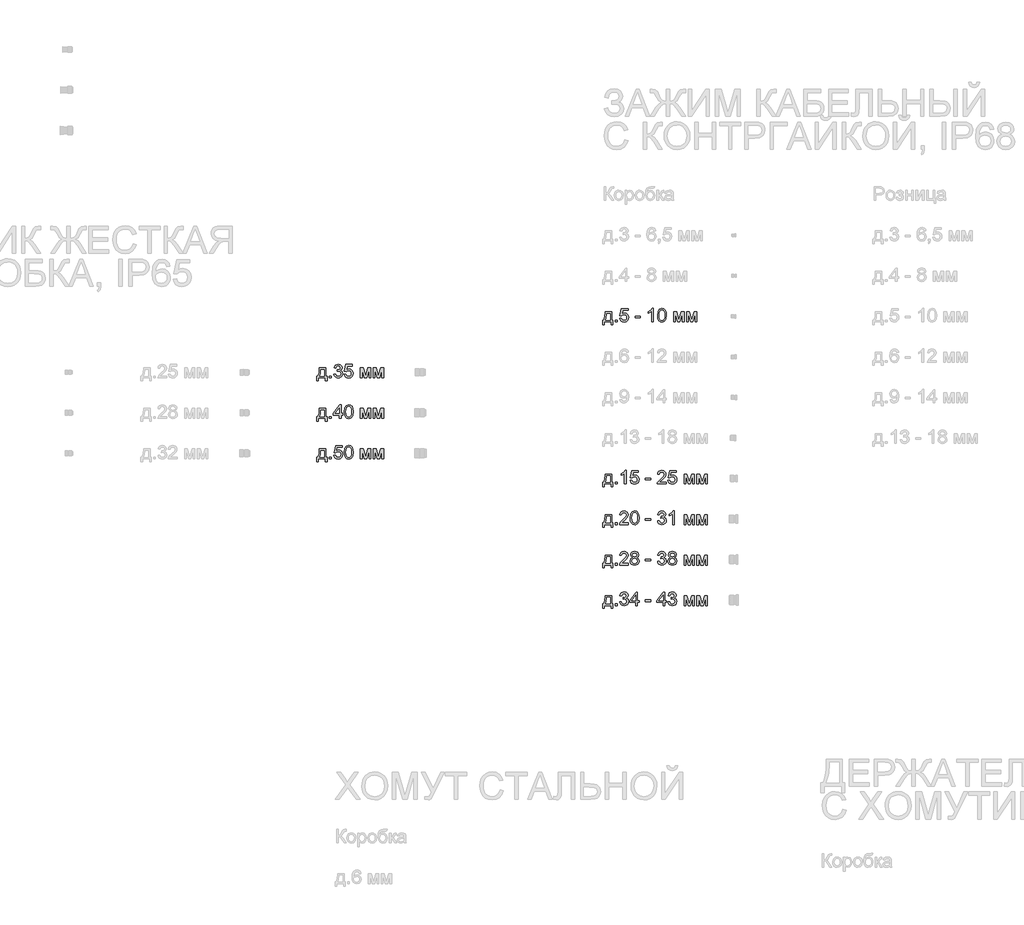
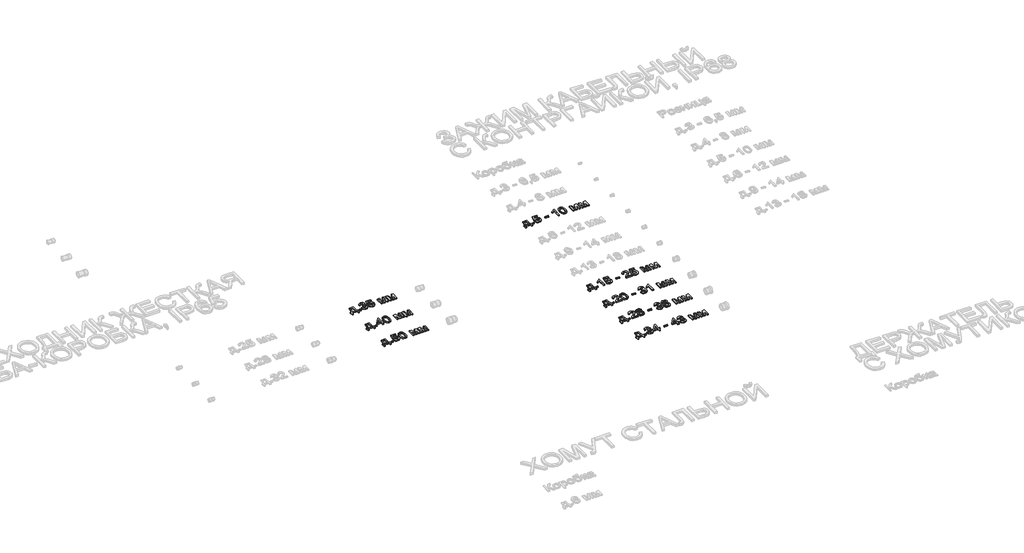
# One storey, part 56 of 98: 8 proxies.
"""IFC4 building model written with IfcOpenShell, lengths in millimetres."""

import ifcopenshell
import ifcopenshell.guid

model = None  # the IFC model being written
_history = None  # IfcOwnerHistory: only IFC2X3 demands one
_inside = {}  # id of a spatial element -> (the spatial element, [elements in it])
_under = {}  # id of a project, library or spatial element -> (it, [spatial elements below it])
_declared = {}  # id of a project -> (the project, [libraries it declares])
_typed = {}  # id of a type object -> (the type object, [elements of that type])
_made_of = {}  # id of a material, layer set ... -> (it, [elements and type objects made of it])


def new_model(schema):
    """Start an empty IFC model of exactly this schema.

    Asked for "IFC4X3", IfcOpenShell would pick the latest addendum, in which some entities
    have other attributes; the version numbers below select the first issue.
    IFC2X3 requires an IfcOwnerHistory on every rooted entity: one is made here for all.
    """
    global model, _history
    if schema == "IFC4X3":
        model = ifcopenshell.file(schema_version=(4, 3, 0, 0))
    else:
        model = ifcopenshell.file(schema=schema)
    _inside.clear()
    _under.clear()
    _declared.clear()
    _typed.clear()
    _made_of.clear()
    _history = None
    if model.schema == "IFC2X3":
        org = make("IfcOrganization", Name="unknown")
        user = make(
            "IfcPersonAndOrganization",
            ThePerson=make("IfcPerson", FamilyName="unknown"),
            TheOrganization=org,
        )
        app = make(
            "IfcApplication",
            ApplicationDeveloper=org,
            Version="unknown",
            ApplicationFullName="unknown",
            ApplicationIdentifier="unknown",
        )
        _history = make(
            "IfcOwnerHistory",
            OwningUser=user,
            OwningApplication=app,
            ChangeAction="ADDED",
            CreationDate=0,
        )
    return model


def make(cls, **values):
    """One entity of the class cls with the attributes given. An attribute that is None is left unset."""
    return model.create_entity(
        cls, **{name: value for name, value in values.items() if value is not None}
    )


def rooted(cls, **values):
    """An entity with a GlobalId (a new one), such as an element, a storey or a relation."""
    return make(cls, GlobalId=ifcopenshell.guid.new(), OwnerHistory=_history, **values)


def si_unit(unit_type, name, prefix=None):
    """IfcSIUnit, for example si_unit("LENGTHUNIT", "METRE", prefix="MILLI")."""
    return make("IfcSIUnit", UnitType=unit_type, Prefix=prefix, Name=name)


def assignment(units):
    """IfcUnitAssignment: the units of a project."""
    return None if units is None else make("IfcUnitAssignment", Units=units)


def point(xyz):
    """IfcCartesianPoint."""
    return None if xyz is None else make("IfcCartesianPoint", Coordinates=xyz)


def direction(xyz):
    """IfcDirection."""
    return None if xyz is None else make("IfcDirection", DirectionRatios=xyz)


def frame(location, z_axis=None, x_axis=None):
    """IfcAxis2Placement3D, a coordinate frame: its origin and axes. An axis left out is left unset."""
    return make(
        "IfcAxis2Placement3D",
        Location=point(location),
        Axis=direction(z_axis),
        RefDirection=direction(x_axis),
    )


def origin():
    """The frame at (0, 0, 0) with its axes left unset."""
    return frame((0.0, 0.0, 0.0))


def origin_with_axes():
    """The frame at (0, 0, 0) with the z axis (0, 0, 1) and the x axis (1, 0, 0) written out."""
    return frame((0.0, 0.0, 0.0), z_axis=(0.0, 0.0, 1.0), x_axis=(1.0, 0.0, 0.0))


def place(relative_to, where):
    """IfcLocalPlacement: puts the frame where relative to a parent placement (None: the world)."""
    return make(
        "IfcLocalPlacement", PlacementRelTo=relative_to, RelativePlacement=where
    )


def context(
    kind, dimensions, precision=None, world=None, true_north=None, identifier=None
):
    """IfcGeometricRepresentationContext, for example the 3D "Model" context."""
    return make(
        "IfcGeometricRepresentationContext",
        ContextIdentifier=identifier,
        ContextType=kind,
        CoordinateSpaceDimension=dimensions,
        Precision=precision,
        WorldCoordinateSystem=world,
        TrueNorth=true_north,
    )


def project(units=None, contexts=None):
    """IfcProject with its units and contexts."""
    return rooted(
        "IfcProject",
        Name="project",
        RepresentationContexts=contexts,
        UnitsInContext=assignment(units),
    )


def spatial(cls, under=None, at=None, **own):
    """A site, building, storey or space (cls), placed at a placement, below another one or the project."""
    s = rooted(cls, ObjectPlacement=at, **own)
    if under is not None:
        _under.setdefault(under.id(), (under, []))[1].append(s)
    return s


def polyline(points):
    """IfcPolyline through the points."""
    return make("IfcPolyline", Points=[point(p) for p in points])


def outline(outer, holes=None, kind="AREA"):
    """IfcArbitraryClosedProfileDef: a profile drawn as a closed curve; with holes, ...WithVoids."""
    if holes is None:
        return make("IfcArbitraryClosedProfileDef", ProfileType=kind, OuterCurve=outer)
    return make(
        "IfcArbitraryProfileDefWithVoids",
        ProfileType=kind,
        OuterCurve=outer,
        InnerCurves=holes,
    )


def extrude(swept, where, along, depth):
    """IfcExtrudedAreaSolid: the profile swept, set in the frame where, extruded along a direction by depth."""
    return make(
        "IfcExtrudedAreaSolid",
        SweptArea=swept,
        Position=where,
        ExtrudedDirection=direction(along),
        Depth=depth,
    )


def shape(context_of_items, identifier, shape_type, items):
    """IfcShapeRepresentation: the items that make up one representation, for example the "Body"."""
    return make(
        "IfcShapeRepresentation",
        ContextOfItems=context_of_items,
        RepresentationIdentifier=identifier,
        RepresentationType=shape_type,
        Items=items,
    )


def made_of(thing, what):
    """Note that an element or type object is made of a material, layer set ...; save() writes the relation."""
    if what is not None:
        _made_of.setdefault(what.id(), (what, []))[1].append(thing)
    return thing


def element(
    cls,
    number,
    at=None,
    inside=None,
    cuts=None,
    type_object=None,
    material=None,
    context=None,
    identifier="Body",
    shape_type=None,
    held_by="IfcProductDefinitionShape",
    body=None,
    shapes=None,
    **own,
):
    """One element of the class cls, such as IfcWall. Its Tag is "e" and its number.

    at: its placement. inside: the storey or other place that contains it. cuts: it is an
    opening in that element (IfcRelVoidsElement). A single representation is given by context,
    identifier, shape_type and body (its items); several are given by shapes. held_by: the class
    of the entity that holds the representations. save() writes the other relations.
    """
    e = rooted(cls, Tag="e%d" % number, ObjectPlacement=at, **own)
    if body is not None:
        shapes = [shape(context, identifier, shape_type, body)]
    if shapes is not None:
        e.Representation = make(held_by, Representations=shapes)
    if inside is not None:
        _inside.setdefault(inside.id(), (inside, []))[1].append(e)
    if cuts is not None:
        rooted(
            "IfcRelVoidsElement", RelatingBuildingElement=cuts, RelatedOpeningElement=e
        )
    if type_object is not None:
        _typed.setdefault(type_object.id(), (type_object, []))[1].append(e)
    return made_of(e, material)


def aggregate(whole, parts):
    """IfcRelAggregates: a whole, such as a stair, and the parts it consists of."""
    return rooted("IfcRelAggregates", RelatingObject=whole, RelatedObjects=parts)


def save(model, path):
    """Write the relations noted so far, then the file.

    IfcRelAggregates (storeys below a building ...), IfcRelContainedInSpatialStructure (elements
    in a storey), IfcRelDefinesByType, IfcRelAssociatesMaterial and IfcRelDeclares: one each for
    every whole, place, type object, material and project.
    """
    for whole, parts in _under.values():
        aggregate(whole, parts)
    for where, things in _inside.values():
        rooted(
            "IfcRelContainedInSpatialStructure",
            RelatedElements=things,
            RelatingStructure=where,
        )
    for kind, things in _typed.values():
        rooted("IfcRelDefinesByType", RelatedObjects=things, RelatingType=kind)
    for what, things in _made_of.values():
        rooted("IfcRelAssociatesMaterial", RelatedObjects=things, RelatingMaterial=what)
    for by, libraries in _declared.values():
        rooted("IfcRelDeclares", RelatingContext=by, RelatedDefinitions=libraries)
    model.write(path)


model = new_model("IFC4")

# Units and contexts
model_context = context("Model", 3, world=origin())
ifc_project = project(units=[si_unit("LENGTHUNIT", "METRE", prefix="MILLI")], contexts=[model_context])

# Site, building, storey
site = spatial("IfcSite", under=ifc_project)
building = spatial("IfcBuilding", under=site)
storey = spatial("IfcBuildingStorey", under=building, Name="Этаж 01", Elevation=0.0)

# Proxies
placement = place(None, origin())
element("IfcBuildingElementProxy", 1, Name="100", ObjectType="100", at=placement, inside=storey, context=model_context, shape_type="SweptSolid", body=[
    extrude(outline(polyline([(12314.7356235, -28463.7647458), (12361.8245189, -28463.7647458), (12361.8245189, -28524.9803098), (12371.242298, -28524.9803098), (12371.242298, -28557.9425366), (12358.6852592, -28557.9425366), (12358.6852592, -28537.5373486), (12306.8874743, -28537.5373486), (12306.8874743, -28557.9425366), (12294.3304355, -28557.9425366), (12294.3304355, -28524.9803098), (12302.1785848, -28524.9803098), (12311.8784067, -28501.031192), (12314.7356235, -28463.7647458)]), holes=[polyline([(12325.7230324, -28476.3217846), (12322.7799765, -28504.9307411), (12316.3052534, -28524.9803098), (12349.2674801, -28524.9803098), (12349.2674801, -28476.3217846), (12325.7230324, -28476.3217846)])]), origin_with_axes(), (0.0, 0.0, 1.0), 10.0),
    extrude(outline(polyline([(12388.5082263, -28537.5373486), (12388.5082263, -28524.9803098), (12401.0652651, -28524.9803098), (12401.0652651, -28537.5373486), (12388.5082263, -28537.5373486)])), origin_with_axes(), (0.0, 0.0, 1.0), 10.0),
    extrude(outline(polyline([(12421.4704531, -28510.8536412), (12434.0274918, -28509.2840114), (12440.9559361, -28522.5032377), (12453.917645, -28526.5499397), (12462.5260837, -28525.1581195), (12469.1724851, -28520.9826588), (12474.8378678, -28507.1993467), (12469.221536, -28494.2131123), (12454.9477146, -28489.0750271), (12446.1430722, -28490.4484532), (12447.5410238, -28477.8914145), (12449.552112, -28478.0385673), (12463.801408, -28474.4333237), (12468.5470857, -28469.8593242), (12470.1289783, -28463.3478129), (12465.5427161, -28453.5253636), (12453.7214413, -28449.6380772), (12441.7530137, -28453.5621518), (12435.5971217, -28465.3343757), (12423.0400829, -28463.7647458), (12426.737297, -28452.4891627), (12433.3162533, -28444.0707964), (12442.3170994, -28438.8284779), (12453.2799829, -28437.0810385), (12468.4244584, -28440.5268665), (12479.0194598, -28449.9446456), (12482.6860171, -28462.6120489), (12479.2034008, -28474.188069), (12468.902705, -28482.5022021), (12482.5879152, -28491.0861154), (12487.3949066, -28507.4200759), (12484.9914109, -28519.6582836), (12477.7809238, -28529.8854031), (12466.8977481, -28536.8015846), (12453.4761866, -28539.1069785), (12441.3360808, -28537.1388098), (12431.4523179, -28531.2343038), (12424.5790559, -28522.2028008), (12421.4704531, -28510.8536412)])), origin_with_axes(), (0.0, 0.0, 1.0), 10.0),
    extrude(outline(polyline([(12498.3823155, -28510.8536412), (12510.9393543, -28509.2840114), (12517.2669246, -28522.2211949), (12530.3880491, -28526.5499397), (12539.3888952, -28525.0446892), (12546.1333985, -28520.5289377), (12550.3456473, -28513.5238514), (12551.7497303, -28504.5505964), (12546.4890177, -28489.6391128), (12539.8824703, -28485.5372286), (12530.5842528, -28484.1699338), (12519.5600557, -28486.3527004), (12512.5089841, -28492.0180831), (12499.9519454, -28490.4484532), (12510.9393543, -28438.6506683), (12559.5978795, -28438.6506683), (12559.5978795, -28451.2077071), (12521.0928973, -28451.2077071), (12515.7218202, -28478.8724331), (12524.6920095, -28473.4277796), (12534.0913945, -28471.6128951), (12545.8237645, -28473.8631066), (12555.5634403, -28480.6137412), (12562.1209369, -28490.9021744), (12564.306769, -28503.7657815), (12562.3386004, -28516.3228202), (12556.4340944, -28527.0649745), (12545.1278544, -28536.0964775), (12530.3389982, -28539.1069785), (12518.0057543, -28537.1725323), (12508.1802393, -28531.3691938), (12501.4449331, -28522.3714134), (12498.3823155, -28510.8536412)])), origin_with_axes(), (0.0, 0.0, 1.0), 10.0),
    extrude(outline(polyline([(12617.6741838, -28463.7647458), (12639.2811197, -28463.7647458), (12655.9339113, -28522.8220688), (12673.8865527, -28463.7647458), (12694.5860463, -28463.7647458), (12694.5860463, -28537.5373486), (12682.0290075, -28537.5373486), (12682.0290075, -28478.1366691), (12663.9782643, -28537.5373486), (12647.4971509, -28537.5373486), (12630.2312226, -28475.291715), (12630.2312226, -28537.5373486), (12617.6741838, -28537.5373486), (12617.6741838, -28463.7647458)])), origin_with_axes(), (0.0, 0.0, 1.0), 10.0),
    extrude(outline(polyline([(12713.4216044, -28463.7647458), (12735.0285403, -28463.7647458), (12751.6813319, -28522.8220688), (12769.6339733, -28463.7647458), (12790.3334669, -28463.7647458), (12790.3334669, -28537.5373486), (12777.7764281, -28537.5373486), (12777.7764281, -28478.1366691), (12759.7256849, -28537.5373486), (12743.2445715, -28537.5373486), (12725.9786432, -28475.291715), (12725.9786432, -28537.5373486), (12713.4216044, -28537.5373486), (12713.4216044, -28463.7647458)])), origin_with_axes(), (0.0, 0.0, 1.0), 10.0),
])
element("IfcBuildingElementProxy", 2, Name="100", ObjectType="100", at=placement, inside=storey, context=model_context, shape_type="SweptSolid", body=[
    extrude(outline(polyline([(12314.7356235, -28763.7647458), (12361.8245189, -28763.7647458), (12361.8245189, -28824.9803098), (12371.242298, -28824.9803098), (12371.242298, -28857.9425366), (12358.6852592, -28857.9425366), (12358.6852592, -28837.5373486), (12306.8874743, -28837.5373486), (12306.8874743, -28857.9425366), (12294.3304355, -28857.9425366), (12294.3304355, -28824.9803098), (12302.1785848, -28824.9803098), (12311.8784067, -28801.031192), (12314.7356235, -28763.7647458)]), holes=[polyline([(12325.7230324, -28776.3217846), (12322.7799765, -28804.9307411), (12316.3052534, -28824.9803098), (12349.2674801, -28824.9803098), (12349.2674801, -28776.3217846), (12325.7230324, -28776.3217846)])]), origin_with_axes(), (0.0, 0.0, 1.0), 10.0),
    extrude(outline(polyline([(12388.5082263, -28837.5373486), (12388.5082263, -28824.9803098), (12401.0652651, -28824.9803098), (12401.0652651, -28837.5373486), (12388.5082263, -28837.5373486)])), origin_with_axes(), (0.0, 0.0, 1.0), 10.0),
    extrude(outline(polyline([(12462.2808291, -28837.5373486), (12462.2808291, -28813.9929009), (12416.7615635, -28813.9929009), (12416.7615635, -28801.4358622), (12465.4200887, -28738.6506683), (12474.8378678, -28738.6506683), (12474.8378678, -28801.4358622), (12487.3949066, -28801.4358622), (12487.3949066, -28813.9929009), (12474.8378678, -28813.9929009), (12474.8378678, -28837.5373486), (12462.2808291, -28837.5373486)]), holes=[polyline([(12462.2808291, -28801.4358622), (12462.2808291, -28762.6365744), (12432.2126073, -28801.4358622), (12462.2808291, -28801.4358622)])]), origin_with_axes(), (0.0, 0.0, 1.0), 10.0),
    extrude(outline(polyline([(12498.3823155, -28788.1185339), (12502.0733982, -28759.2152718), (12513.0362817, -28742.5502175), (12531.3445423, -28737.0810385), (12546.0107712, -28740.3184), (12556.1397888, -28749.65034), (12562.0259007, -28764.5127726), (12564.306769, -28788.1185339), (12560.6524746, -28816.8991687), (12549.7263793, -28833.6010113), (12541.4950197, -28837.7304867), (12531.3445423, -28839.1069785), (12518.2969942, -28836.7157455), (12508.3887058, -28829.5420466), (12500.8839131, -28812.5520298), (12498.3823155, -28788.1185339)]), holes=[polyline([(12510.9393543, -28788.0940085), (12512.4108823, -28807.8462059), (12516.8254662, -28819.2781389), (12523.3982912, -28824.7319895), (12531.3445423, -28826.5499397), (12539.2907934, -28824.7258581), (12545.8636184, -28819.2536135), (12550.2782023, -28807.8155491), (12551.7497303, -28788.0940085), (12550.3272532, -28768.7863351), (12546.0598221, -28757.2654973), (12539.4992598, -28751.5449322), (12531.1973895, -28749.6380772), (12523.3369775, -28751.3180717), (12517.0216699, -28756.358055), (12512.4599332, -28768.5962627), (12510.9393543, -28788.0940085)])]), origin_with_axes(), (0.0, 0.0, 1.0), 10.0),
    extrude(outline(polyline([(12617.6741838, -28763.7647458), (12639.2811197, -28763.7647458), (12655.9339113, -28822.8220688), (12673.8865527, -28763.7647458), (12694.5860463, -28763.7647458), (12694.5860463, -28837.5373486), (12682.0290075, -28837.5373486), (12682.0290075, -28778.1366691), (12663.9782643, -28837.5373486), (12647.4971509, -28837.5373486), (12630.2312226, -28775.291715), (12630.2312226, -28837.5373486), (12617.6741838, -28837.5373486), (12617.6741838, -28763.7647458)])), origin_with_axes(), (0.0, 0.0, 1.0), 10.0),
    extrude(outline(polyline([(12713.4216044, -28763.7647458), (12735.0285403, -28763.7647458), (12751.6813319, -28822.8220688), (12769.6339733, -28763.7647458), (12790.3334669, -28763.7647458), (12790.3334669, -28837.5373486), (12777.7764281, -28837.5373486), (12777.7764281, -28778.1366691), (12759.7256849, -28837.5373486), (12743.2445715, -28837.5373486), (12725.9786432, -28775.291715), (12725.9786432, -28837.5373486), (12713.4216044, -28837.5373486), (12713.4216044, -28763.7647458)])), origin_with_axes(), (0.0, 0.0, 1.0), 10.0),
])
element("IfcBuildingElementProxy", 3, Name="100", ObjectType="100", at=placement, inside=storey, context=model_context, shape_type="SweptSolid", body=[
    extrude(outline(polyline([(12314.7356235, -29063.7647458), (12361.8245189, -29063.7647458), (12361.8245189, -29124.9803098), (12371.242298, -29124.9803098), (12371.242298, -29157.9425366), (12358.6852592, -29157.9425366), (12358.6852592, -29137.5373486), (12306.8874743, -29137.5373486), (12306.8874743, -29157.9425366), (12294.3304355, -29157.9425366), (12294.3304355, -29124.9803098), (12302.1785848, -29124.9803098), (12311.8784067, -29101.031192), (12314.7356235, -29063.7647458)]), holes=[polyline([(12325.7230324, -29076.3217846), (12322.7799765, -29104.9307411), (12316.3052534, -29124.9803098), (12349.2674801, -29124.9803098), (12349.2674801, -29076.3217846), (12325.7230324, -29076.3217846)])]), origin_with_axes(), (0.0, 0.0, 1.0), 10.0),
    extrude(outline(polyline([(12388.5082263, -29137.5373486), (12388.5082263, -29124.9803098), (12401.0652651, -29124.9803098), (12401.0652651, -29137.5373486), (12388.5082263, -29137.5373486)])), origin_with_axes(), (0.0, 0.0, 1.0), 10.0),
    extrude(outline(polyline([(12421.4704531, -29110.8536412), (12434.0274918, -29109.2840114), (12440.3550621, -29122.2211949), (12453.4761866, -29126.5499397), (12462.4770328, -29125.0446892), (12469.221536, -29120.5289377), (12473.4337849, -29113.5238514), (12474.8378678, -29104.5505964), (12469.5771553, -29089.6391128), (12462.9706078, -29085.5372286), (12453.6723904, -29084.1699338), (12442.6481932, -29086.3527004), (12435.5971217, -29092.0180831), (12423.0400829, -29090.4484532), (12434.0274918, -29038.6506683), (12482.6860171, -29038.6506683), (12482.6860171, -29051.2077071), (12444.1810349, -29051.2077071), (12438.8099578, -29078.8724331), (12447.7801471, -29073.4277796), (12457.1795321, -29071.6128951), (12468.911902, -29073.8631066), (12478.6515778, -29080.6137412), (12485.2090744, -29090.9021744), (12487.3949066, -29103.7657815), (12485.4267379, -29116.3228202), (12479.5222319, -29127.0649745), (12468.2159919, -29136.0964775), (12453.4271357, -29139.1069785), (12441.0938918, -29137.1725323), (12431.2683769, -29131.3691938), (12424.5330707, -29122.3714134), (12421.4704531, -29110.8536412)])), origin_with_axes(), (0.0, 0.0, 1.0), 10.0),
    extrude(outline(polyline([(12498.3823155, -29088.1185339), (12502.0733982, -29059.2152718), (12513.0362817, -29042.5502175), (12531.3445423, -29037.0810385), (12546.0107712, -29040.3184), (12556.1397888, -29049.65034), (12562.0259007, -29064.5127726), (12564.306769, -29088.1185339), (12560.6524746, -29116.8991687), (12549.7263793, -29133.6010113), (12541.4950197, -29137.7304867), (12531.3445423, -29139.1069785), (12518.2969942, -29136.7157455), (12508.3887058, -29129.5420466), (12500.8839131, -29112.5520298), (12498.3823155, -29088.1185339)]), holes=[polyline([(12510.9393543, -29088.0940085), (12512.4108823, -29107.8462059), (12516.8254662, -29119.2781389), (12523.3982912, -29124.7319895), (12531.3445423, -29126.5499397), (12539.2907934, -29124.7258581), (12545.8636184, -29119.2536135), (12550.2782023, -29107.8155491), (12551.7497303, -29088.0940085), (12550.3272532, -29068.7863351), (12546.0598221, -29057.2654973), (12539.4992598, -29051.5449322), (12531.1973895, -29049.6380772), (12523.3369775, -29051.3180717), (12517.0216699, -29056.358055), (12512.4599332, -29068.5962627), (12510.9393543, -29088.0940085)])]), origin_with_axes(), (0.0, 0.0, 1.0), 10.0),
    extrude(outline(polyline([(12617.6741838, -29063.7647458), (12639.2811197, -29063.7647458), (12655.9339113, -29122.8220688), (12673.8865527, -29063.7647458), (12694.5860463, -29063.7647458), (12694.5860463, -29137.5373486), (12682.0290075, -29137.5373486), (12682.0290075, -29078.1366691), (12663.9782643, -29137.5373486), (12647.4971509, -29137.5373486), (12630.2312226, -29075.291715), (12630.2312226, -29137.5373486), (12617.6741838, -29137.5373486), (12617.6741838, -29063.7647458)])), origin_with_axes(), (0.0, 0.0, 1.0), 10.0),
    extrude(outline(polyline([(12713.4216044, -29063.7647458), (12735.0285403, -29063.7647458), (12751.6813319, -29122.8220688), (12769.6339733, -29063.7647458), (12790.3334669, -29063.7647458), (12790.3334669, -29137.5373486), (12777.7764281, -29137.5373486), (12777.7764281, -29078.1366691), (12759.7256849, -29137.5373486), (12743.2445715, -29137.5373486), (12725.9786432, -29075.291715), (12725.9786432, -29137.5373486), (12713.4216044, -29137.5373486), (12713.4216044, -29063.7647458)])), origin_with_axes(), (0.0, 0.0, 1.0), 10.0),
])
element("IfcBuildingElementProxy", 4, Name="100", ObjectType="100", at=placement, inside=storey, context=model_context, shape_type="SweptSolid", body=[
    extrude(outline(polyline([(14431.7338321, -28049.6891994), (14478.8227275, -28049.6891994), (14478.8227275, -28110.9047634), (14488.2405066, -28110.9047634), (14488.2405066, -28143.8669901), (14475.6834678, -28143.8669901), (14475.6834678, -28123.4618021), (14423.8856829, -28123.4618021), (14423.8856829, -28143.8669901), (14411.3286441, -28143.8669901), (14411.3286441, -28110.9047634), (14419.1767934, -28110.9047634), (14428.8766153, -28086.9556455), (14431.7338321, -28049.6891994)]), holes=[polyline([(14442.721241, -28062.2462382), (14439.7781851, -28090.8551946), (14433.303462, -28110.9047634), (14466.2656887, -28110.9047634), (14466.2656887, -28062.2462382), (14442.721241, -28062.2462382)])]), origin_with_axes(), (0.0, 0.0, 1.0), 10.0),
    extrude(outline(polyline([(14505.5064349, -28123.4618021), (14505.5064349, -28110.9047634), (14518.0634737, -28110.9047634), (14518.0634737, -28123.4618021), (14505.5064349, -28123.4618021)])), origin_with_axes(), (0.0, 0.0, 1.0), 10.0),
    extrude(outline(polyline([(14538.4686617, -28096.7780948), (14551.0257004, -28095.2084649), (14557.3532707, -28108.1456484), (14570.4743952, -28112.4743932), (14579.4752414, -28110.9691427), (14586.2197446, -28106.4533912), (14590.4319935, -28099.4483049), (14591.8360764, -28090.4750499), (14586.5753639, -28075.5635664), (14579.9688164, -28071.4616821), (14570.670599, -28070.0943874), (14559.6464018, -28072.2771539), (14552.5953303, -28077.9425366), (14540.0382915, -28076.3729068), (14551.0257004, -28024.5751218), (14599.6842257, -28024.5751218), (14599.6842257, -28037.1321606), (14561.1792435, -28037.1321606), (14555.8081664, -28064.7968867), (14564.7783557, -28059.3522331), (14574.1777407, -28057.5373486), (14585.9101106, -28059.7875602), (14595.6497864, -28066.5381948), (14602.207283, -28076.8266279), (14604.3931152, -28089.690235), (14602.4249465, -28102.2472738), (14596.5204405, -28112.989428), (14585.2142005, -28122.020931), (14570.4253443, -28125.031432), (14558.0921004, -28123.0969858), (14548.2665855, -28117.2936474), (14541.5312793, -28108.2958669), (14538.4686617, -28096.7780948)])), origin_with_axes(), (0.0, 0.0, 1.0), 10.0),
    extrude(outline(polyline([(14651.4820106, -28093.6388351), (14651.4820106, -28081.0817963), (14690.7227567, -28081.0817963), (14690.7227567, -28093.6388351), (14651.4820106, -28093.6388351)])), origin_with_axes(), (0.0, 0.0, 1.0), 10.0),
    extrude(outline(polyline([(14788.0398072, -28123.4618021), (14775.4827684, -28123.4618021), (14775.4827684, -28045.1765136), (14763.5879172, -28053.6500622), (14750.3686909, -28059.9898952), (14750.3686909, -28048.1195695), (14768.7750534, -28036.3718712), (14779.9464033, -28023.005492), (14788.0398072, -28023.005492), (14788.0398072, -28123.4618021)])), origin_with_axes(), (0.0, 0.0, 1.0), 10.0),
    extrude(outline(polyline([(14817.8627743, -28074.0429875), (14821.5538569, -28045.1397254), (14832.5167404, -28028.474671), (14850.825001, -28023.005492), (14865.4912299, -28026.2428536), (14875.6202475, -28035.5747935), (14881.5063594, -28050.4372261), (14883.7872278, -28074.0429875), (14880.1329333, -28102.8236222), (14869.2068381, -28119.5254648), (14860.9754784, -28123.6549402), (14850.825001, -28125.031432), (14837.7774529, -28122.640199), (14827.8691645, -28115.4665001), (14820.3643718, -28098.4764833), (14817.8627743, -28074.0429875)]), holes=[polyline([(14830.419813, -28074.018462), (14831.891341, -28093.7706595), (14836.305925, -28105.2025925), (14842.8787499, -28110.656443), (14850.825001, -28112.4743932), (14858.7712521, -28110.6503117), (14865.3440771, -28105.178067), (14869.758661, -28093.7400026), (14871.230189, -28074.018462), (14869.807712, -28054.7107886), (14865.5402808, -28043.1899508), (14858.9797186, -28037.4693858), (14850.6778482, -28035.5625308), (14842.8174363, -28037.2425252), (14836.5021287, -28042.2825085), (14831.9403919, -28054.5207163), (14830.419813, -28074.018462)])]), origin_with_axes(), (0.0, 0.0, 1.0), 10.0),
    extrude(outline(polyline([(14937.1546426, -28049.6891994), (14958.7615784, -28049.6891994), (14975.4143701, -28108.7465223), (14993.3670114, -28049.6891994), (15014.066505, -28049.6891994), (15014.066505, -28123.4618021), (15001.5094663, -28123.4618021), (15001.5094663, -28064.0611227), (14983.458723, -28123.4618021), (14966.9776096, -28123.4618021), (14949.7116813, -28061.2161686), (14949.7116813, -28123.4618021), (14937.1546426, -28123.4618021), (14937.1546426, -28049.6891994)])), origin_with_axes(), (0.0, 0.0, 1.0), 10.0),
    extrude(outline(polyline([(15032.9020632, -28049.6891994), (15054.508999, -28049.6891994), (15071.1617907, -28108.7465223), (15089.114432, -28049.6891994), (15109.8139256, -28049.6891994), (15109.8139256, -28123.4618021), (15097.2568869, -28123.4618021), (15097.2568869, -28064.0611227), (15079.2061436, -28123.4618021), (15062.7250303, -28123.4618021), (15045.4591019, -28061.2161686), (15045.4591019, -28123.4618021), (15032.9020632, -28123.4618021), (15032.9020632, -28049.6891994)])), origin_with_axes(), (0.0, 0.0, 1.0), 10.0),
])
element("IfcBuildingElementProxy", 5, Name="100", ObjectType="100", at=placement, inside=storey, context=model_context, shape_type="SweptSolid", body=[
    extrude(outline(polyline([(14431.7338321, -29249.6891994), (14478.8227275, -29249.6891994), (14478.8227275, -29310.9047634), (14488.2405066, -29310.9047634), (14488.2405066, -29343.8669901), (14475.6834678, -29343.8669901), (14475.6834678, -29323.4618021), (14423.8856829, -29323.4618021), (14423.8856829, -29343.8669901), (14411.3286441, -29343.8669901), (14411.3286441, -29310.9047634), (14419.1767934, -29310.9047634), (14428.8766153, -29286.9556455), (14431.7338321, -29249.6891994)]), holes=[polyline([(14442.721241, -29262.2462382), (14439.7781851, -29290.8551946), (14433.303462, -29310.9047634), (14466.2656887, -29310.9047634), (14466.2656887, -29262.2462382), (14442.721241, -29262.2462382)])]), origin_with_axes(), (0.0, 0.0, 1.0), 10.0),
    extrude(outline(polyline([(14505.5064349, -29323.4618021), (14505.5064349, -29310.9047634), (14518.0634737, -29310.9047634), (14518.0634737, -29323.4618021), (14505.5064349, -29323.4618021)])), origin_with_axes(), (0.0, 0.0, 1.0), 10.0),
    extrude(outline(polyline([(14585.557557, -29323.4618021), (14573.0005183, -29323.4618021), (14573.0005183, -29245.1765136), (14561.1056671, -29253.6500622), (14547.8864407, -29259.9898952), (14547.8864407, -29248.1195695), (14566.2928032, -29236.3718712), (14577.4641531, -29223.005492), (14585.557557, -29223.005492), (14585.557557, -29323.4618021)])), origin_with_axes(), (0.0, 0.0, 1.0), 10.0),
    extrude(outline(polyline([(14615.3805241, -29296.7780948), (14627.9375629, -29295.2084649), (14634.2651332, -29308.1456484), (14647.3862577, -29312.4743932), (14656.3871038, -29310.9691427), (14663.1316071, -29306.4533912), (14667.3438559, -29299.4483049), (14668.7479389, -29290.4750499), (14663.4872264, -29275.5635664), (14656.8806789, -29271.4616821), (14647.5824614, -29270.0943874), (14636.5582643, -29272.2771539), (14629.5071927, -29277.9425366), (14616.950154, -29276.3729068), (14627.9375629, -29224.5751218), (14676.5960881, -29224.5751218), (14676.5960881, -29237.1321606), (14638.091106, -29237.1321606), (14632.7200288, -29264.7968867), (14641.6902181, -29259.3522331), (14651.0896031, -29257.5373486), (14662.8219731, -29259.7875602), (14672.5616489, -29266.5381948), (14679.1191455, -29276.8266279), (14681.3049777, -29289.690235), (14679.336809, -29302.2472738), (14673.432303, -29312.989428), (14662.126063, -29322.020931), (14647.3372068, -29325.031432), (14635.0039629, -29323.0969858), (14625.1784479, -29317.2936474), (14618.4431417, -29308.2958669), (14615.3805241, -29296.7780948)])), origin_with_axes(), (0.0, 0.0, 1.0), 10.0),
    extrude(outline(polyline([(14728.393873, -29293.6388351), (14728.393873, -29281.0817963), (14767.6346192, -29281.0817963), (14767.6346192, -29293.6388351), (14728.393873, -29293.6388351)])), origin_with_axes(), (0.0, 0.0, 1.0), 10.0),
    extrude(outline(polyline([(14882.217598, -29310.9047634), (14882.217598, -29323.4618021), (14816.2931444, -29323.4618021), (14817.6420451, -29314.8043125), (14825.2694651, -29301.4747216), (14840.990289, -29286.9188573), (14862.6708013, -29265.9986345), (14868.0909293, -29251.773864), (14862.9773696, -29240.2591576), (14849.6232532, -29235.5625308), (14835.705051, -29240.148793), (14830.419813, -29252.8284591), (14817.8627743, -29251.2588292), (14820.9069978, -29239.112592), (14827.4890198, -29230.2405046), (14837.2654838, -29224.8142451), (14849.8930333, -29223.005492), (14862.6125533, -29225.0165802), (14872.3706232, -29231.049845), (14878.5786319, -29240.0629538), (14880.6479681, -29251.0135746), (14878.4161507, -29262.9206885), (14870.9971971, -29275.2324726), (14853.0077675, -29292.4370872), (14838.5622679, -29304.5158794), (14832.8968851, -29310.9047634), (14882.217598, -29310.9047634)])), origin_with_axes(), (0.0, 0.0, 1.0), 10.0),
    extrude(outline(polyline([(14894.7746367, -29296.7780948), (14907.3316755, -29295.2084649), (14913.6592458, -29308.1456484), (14926.7803703, -29312.4743932), (14935.7812164, -29310.9691427), (14942.5257197, -29306.4533912), (14946.7379685, -29299.4483049), (14948.1420515, -29290.4750499), (14942.881339, -29275.5635664), (14936.2747915, -29271.4616821), (14926.976574, -29270.0943874), (14915.9523769, -29272.2771539), (14908.9013053, -29277.9425366), (14896.3442666, -29276.3729068), (14907.3316755, -29224.5751218), (14955.9902007, -29224.5751218), (14955.9902007, -29237.1321606), (14917.4852186, -29237.1321606), (14912.1141414, -29264.7968867), (14921.0843307, -29259.3522331), (14930.4837157, -29257.5373486), (14942.2160857, -29259.7875602), (14951.9557615, -29266.5381948), (14958.5132581, -29276.8266279), (14960.6990903, -29289.690235), (14958.7309216, -29302.2472738), (14952.8264156, -29312.989428), (14941.5201756, -29322.020931), (14926.7313194, -29325.031432), (14914.3980755, -29323.0969858), (14904.5725605, -29317.2936474), (14897.8372543, -29308.2958669), (14894.7746367, -29296.7780948)])), origin_with_axes(), (0.0, 0.0, 1.0), 10.0),
    extrude(outline(polyline([(15014.066505, -29249.6891994), (15035.6734409, -29249.6891994), (15052.3262325, -29308.7465223), (15070.2788739, -29249.6891994), (15090.9783675, -29249.6891994), (15090.9783675, -29323.4618021), (15078.4213287, -29323.4618021), (15078.4213287, -29264.0611227), (15060.3705855, -29323.4618021), (15043.8894721, -29323.4618021), (15026.6235438, -29261.2161686), (15026.6235438, -29323.4618021), (15014.066505, -29323.4618021), (15014.066505, -29249.6891994)])), origin_with_axes(), (0.0, 0.0, 1.0), 10.0),
    extrude(outline(polyline([(15109.8139256, -29249.6891994), (15131.4208615, -29249.6891994), (15148.0736531, -29308.7465223), (15166.0262945, -29249.6891994), (15186.7257881, -29249.6891994), (15186.7257881, -29323.4618021), (15174.1687493, -29323.4618021), (15174.1687493, -29264.0611227), (15156.1180061, -29323.4618021), (15139.6368927, -29323.4618021), (15122.3709644, -29261.2161686), (15122.3709644, -29323.4618021), (15109.8139256, -29323.4618021), (15109.8139256, -29249.6891994)])), origin_with_axes(), (0.0, 0.0, 1.0), 10.0),
])
element("IfcBuildingElementProxy", 6, Name="100", ObjectType="100", at=placement, inside=storey, context=model_context, shape_type="SweptSolid", body=[
    extrude(outline(polyline([(14431.7338321, -29549.6891994), (14478.8227275, -29549.6891994), (14478.8227275, -29610.9047634), (14488.2405066, -29610.9047634), (14488.2405066, -29643.8669901), (14475.6834678, -29643.8669901), (14475.6834678, -29623.4618021), (14423.8856829, -29623.4618021), (14423.8856829, -29643.8669901), (14411.3286441, -29643.8669901), (14411.3286441, -29610.9047634), (14419.1767934, -29610.9047634), (14428.8766153, -29586.9556455), (14431.7338321, -29549.6891994)]), holes=[polyline([(14442.721241, -29562.2462382), (14439.7781851, -29590.8551946), (14433.303462, -29610.9047634), (14466.2656887, -29610.9047634), (14466.2656887, -29562.2462382), (14442.721241, -29562.2462382)])]), origin_with_axes(), (0.0, 0.0, 1.0), 10.0),
    extrude(outline(polyline([(14505.5064349, -29623.4618021), (14505.5064349, -29610.9047634), (14518.0634737, -29610.9047634), (14518.0634737, -29623.4618021), (14505.5064349, -29623.4618021)])), origin_with_axes(), (0.0, 0.0, 1.0), 10.0),
    extrude(outline(polyline([(14602.8234853, -29610.9047634), (14602.8234853, -29623.4618021), (14536.8990318, -29623.4618021), (14538.2479325, -29614.8043125), (14545.8753525, -29601.4747216), (14561.5961764, -29586.9188573), (14583.2766887, -29565.9986345), (14588.6968167, -29551.773864), (14583.583257, -29540.2591576), (14570.2291406, -29535.5625308), (14556.3109384, -29540.148793), (14551.0257004, -29552.8284591), (14538.4686617, -29551.2588292), (14541.5128852, -29539.112592), (14548.0949072, -29530.2405046), (14557.8713712, -29524.8142451), (14570.4989207, -29523.005492), (14583.2184407, -29525.0165802), (14592.9765106, -29531.049845), (14599.1845193, -29540.0629538), (14601.2538555, -29551.0135746), (14599.0220381, -29562.9206885), (14591.6030845, -29575.2324726), (14573.6136549, -29592.4370872), (14559.1681553, -29604.5158794), (14553.5027725, -29610.9047634), (14602.8234853, -29610.9047634)])), origin_with_axes(), (0.0, 0.0, 1.0), 10.0),
    extrude(outline(polyline([(14615.3805241, -29574.0429875), (14619.0716068, -29545.1397254), (14630.0344903, -29528.474671), (14648.3427509, -29523.005492), (14663.0089798, -29526.2428536), (14673.1379974, -29535.5747935), (14679.0241093, -29550.4372261), (14681.3049777, -29574.0429875), (14677.6506832, -29602.8236222), (14666.7245879, -29619.5254648), (14658.4932283, -29623.6549402), (14648.3427509, -29625.031432), (14635.2952028, -29622.640199), (14625.3869144, -29615.4665001), (14617.8821217, -29598.4764833), (14615.3805241, -29574.0429875)]), holes=[polyline([(14627.9375629, -29574.018462), (14629.4090909, -29593.7706595), (14633.8236748, -29605.2025925), (14640.3964998, -29610.656443), (14648.3427509, -29612.4743932), (14656.289002, -29610.6503117), (14662.861827, -29605.178067), (14667.2764109, -29593.7400026), (14668.7479389, -29574.018462), (14667.3254618, -29554.7107886), (14663.0580307, -29543.1899508), (14656.4974684, -29537.4693858), (14648.1955981, -29535.5625308), (14640.3351861, -29537.2425252), (14634.0198785, -29542.2825085), (14629.4581418, -29554.5207163), (14627.9375629, -29574.018462)])]), origin_with_axes(), (0.0, 0.0, 1.0), 10.0),
    extrude(outline(polyline([(14728.393873, -29593.6388351), (14728.393873, -29581.0817963), (14767.6346192, -29581.0817963), (14767.6346192, -29593.6388351), (14728.393873, -29593.6388351)])), origin_with_axes(), (0.0, 0.0, 1.0), 10.0),
    extrude(outline(polyline([(14817.8627743, -29596.7780948), (14830.419813, -29595.2084649), (14837.3482573, -29608.4276913), (14850.3099662, -29612.4743932), (14858.9184049, -29611.082573), (14865.5648063, -29606.9071124), (14871.230189, -29593.1238003), (14865.6138572, -29580.1375659), (14851.3400358, -29574.9994807), (14842.5353934, -29576.3729068), (14843.933345, -29563.815868), (14845.9444332, -29563.9630208), (14860.1937292, -29560.3577772), (14864.9394069, -29555.7837778), (14866.5212995, -29549.2722665), (14861.9350373, -29539.4498172), (14850.1137625, -29535.5625308), (14838.1453349, -29539.4866054), (14831.9894429, -29551.2588292), (14819.4324041, -29549.6891994), (14823.1296182, -29538.4136162), (14829.7085745, -29529.9952499), (14838.7094207, -29524.7529315), (14849.6723041, -29523.005492), (14864.8167796, -29526.45132), (14875.411781, -29535.8690991), (14879.0783383, -29548.5365025), (14875.595722, -29560.1125226), (14865.2950262, -29568.4266557), (14878.9802364, -29577.0105689), (14883.7872278, -29593.3445295), (14881.3837321, -29605.5827372), (14874.173245, -29615.8098566), (14863.2900693, -29622.7260382), (14849.8685078, -29625.031432), (14837.728402, -29623.0632633), (14827.8446391, -29617.1587573), (14820.9713771, -29608.1272543), (14817.8627743, -29596.7780948)])), origin_with_axes(), (0.0, 0.0, 1.0), 10.0),
    extrude(outline(polyline([(14941.8635321, -29623.4618021), (14929.3064933, -29623.4618021), (14929.3064933, -29545.1765136), (14917.4116422, -29553.6500622), (14904.1924158, -29559.9898952), (14904.1924158, -29548.1195695), (14922.5987783, -29536.3718712), (14933.7701282, -29523.005492), (14941.8635321, -29523.005492), (14941.8635321, -29623.4618021)])), origin_with_axes(), (0.0, 0.0, 1.0), 10.0),
    extrude(outline(polyline([(15014.066505, -29549.6891994), (15035.6734409, -29549.6891994), (15052.3262325, -29608.7465223), (15070.2788739, -29549.6891994), (15090.9783675, -29549.6891994), (15090.9783675, -29623.4618021), (15078.4213287, -29623.4618021), (15078.4213287, -29564.0611227), (15060.3705855, -29623.4618021), (15043.8894721, -29623.4618021), (15026.6235438, -29561.2161686), (15026.6235438, -29623.4618021), (15014.066505, -29623.4618021), (15014.066505, -29549.6891994)])), origin_with_axes(), (0.0, 0.0, 1.0), 10.0),
    extrude(outline(polyline([(15109.8139256, -29549.6891994), (15131.4208615, -29549.6891994), (15148.0736531, -29608.7465223), (15166.0262945, -29549.6891994), (15186.7257881, -29549.6891994), (15186.7257881, -29623.4618021), (15174.1687493, -29623.4618021), (15174.1687493, -29564.0611227), (15156.1180061, -29623.4618021), (15139.6368927, -29623.4618021), (15122.3709644, -29561.2161686), (15122.3709644, -29623.4618021), (15109.8139256, -29623.4618021), (15109.8139256, -29549.6891994)])), origin_with_axes(), (0.0, 0.0, 1.0), 10.0),
])
element("IfcBuildingElementProxy", 7, Name="100", ObjectType="100", at=placement, inside=storey, context=model_context, shape_type="SweptSolid", body=[
    extrude(outline(polyline([(14431.7338321, -29849.6891994), (14478.8227275, -29849.6891994), (14478.8227275, -29910.9047634), (14488.2405066, -29910.9047634), (14488.2405066, -29943.8669901), (14475.6834678, -29943.8669901), (14475.6834678, -29923.4618021), (14423.8856829, -29923.4618021), (14423.8856829, -29943.8669901), (14411.3286441, -29943.8669901), (14411.3286441, -29910.9047634), (14419.1767934, -29910.9047634), (14428.8766153, -29886.9556455), (14431.7338321, -29849.6891994)]), holes=[polyline([(14442.721241, -29862.2462382), (14439.7781851, -29890.8551946), (14433.303462, -29910.9047634), (14466.2656887, -29910.9047634), (14466.2656887, -29862.2462382), (14442.721241, -29862.2462382)])]), origin_with_axes(), (0.0, 0.0, 1.0), 10.0),
    extrude(outline(polyline([(14505.5064349, -29923.4618021), (14505.5064349, -29910.9047634), (14518.0634737, -29910.9047634), (14518.0634737, -29923.4618021), (14505.5064349, -29923.4618021)])), origin_with_axes(), (0.0, 0.0, 1.0), 10.0),
    extrude(outline(polyline([(14602.8234853, -29910.9047634), (14602.8234853, -29923.4618021), (14536.8990318, -29923.4618021), (14538.2479325, -29914.8043125), (14545.8753525, -29901.4747216), (14561.5961764, -29886.9188573), (14583.2766887, -29865.9986345), (14588.6968167, -29851.773864), (14583.583257, -29840.2591576), (14570.2291406, -29835.5625308), (14556.3109384, -29840.148793), (14551.0257004, -29852.8284591), (14538.4686617, -29851.2588292), (14541.5128852, -29839.112592), (14548.0949072, -29830.2405046), (14557.8713712, -29824.8142451), (14570.4989207, -29823.005492), (14583.2184407, -29825.0165802), (14592.9765106, -29831.049845), (14599.1845193, -29840.0629538), (14601.2538555, -29851.0135746), (14599.0220381, -29862.9206885), (14591.6030845, -29875.2324726), (14573.6136549, -29892.4370872), (14559.1681553, -29904.5158794), (14553.5027725, -29910.9047634), (14602.8234853, -29910.9047634)])), origin_with_axes(), (0.0, 0.0, 1.0), 10.0),
    extrude(outline(polyline([(14633.676522, -29868.1323501), (14622.235392, -29860.3332518), (14618.5197838, -29848.1931459), (14620.5431348, -29838.376828), (14626.6131877, -29830.26503), (14636.0493609, -29824.8203765), (14648.1710726, -29823.005492), (14660.3663608, -29824.8632961), (14669.9251613, -29830.4367083), (14676.1055788, -29838.677265), (14678.165718, -29848.5365025), (14674.4991607, -29860.37004), (14663.3768618, -29868.1323501), (14676.7309782, -29877.9793248), (14681.3049777, -29894.2274463), (14679.036372, -29906.232662), (14672.2305551, -29916.1532132), (14661.7213928, -29922.8118773), (14648.3427509, -29925.031432), (14634.964109, -29922.8026802), (14624.4549467, -29916.116425), (14617.6491298, -29906.1008377), (14615.3805241, -29893.8840897), (14620.1384646, -29877.2558236), (14633.676522, -29868.1323501)]), holes=[polyline([(14627.9375629, -29893.4426313), (14630.0344903, -29902.8971986), (14637.4534438, -29909.9727957), (14648.4408527, -29912.4743932), (14656.9879778, -29911.1592151), (14663.4013872, -29907.2136807), (14668.7479389, -29893.8350388), (14663.229709, -29880.1988795), (14656.6691467, -29876.1521776), (14648.0239198, -29874.8032769), (14639.5963564, -29876.1337835), (14633.2473263, -29880.1253031), (14627.9375629, -29893.4426313)]), polyline([(14631.0768226, -29848.5610279), (14635.5281947, -29858.4202654), (14648.4899037, -29862.2462382), (14661.1940952, -29858.4447909), (14665.6086792, -29849.1251137), (14661.0469424, -29839.4743427), (14648.3427509, -29835.5625308), (14635.6017711, -29839.3885035), (14631.0768226, -29848.5610279)])]), origin_with_axes(), (0.0, 0.0, 1.0), 10.0),
    extrude(outline(polyline([(14728.393873, -29893.6388351), (14728.393873, -29881.0817963), (14767.6346192, -29881.0817963), (14767.6346192, -29893.6388351), (14728.393873, -29893.6388351)])), origin_with_axes(), (0.0, 0.0, 1.0), 10.0),
    extrude(outline(polyline([(14817.8627743, -29896.7780948), (14830.419813, -29895.2084649), (14837.3482573, -29908.4276913), (14850.3099662, -29912.4743932), (14858.9184049, -29911.082573), (14865.5648063, -29906.9071124), (14871.230189, -29893.1238003), (14865.6138572, -29880.1375659), (14851.3400358, -29874.9994807), (14842.5353934, -29876.3729068), (14843.933345, -29863.815868), (14845.9444332, -29863.9630208), (14860.1937292, -29860.3577772), (14864.9394069, -29855.7837778), (14866.5212995, -29849.2722665), (14861.9350373, -29839.4498172), (14850.1137625, -29835.5625308), (14838.1453349, -29839.4866054), (14831.9894429, -29851.2588292), (14819.4324041, -29849.6891994), (14823.1296182, -29838.4136162), (14829.7085745, -29829.9952499), (14838.7094207, -29824.7529315), (14849.6723041, -29823.005492), (14864.8167796, -29826.45132), (14875.411781, -29835.8690991), (14879.0783383, -29848.5365025), (14875.595722, -29860.1125226), (14865.2950262, -29868.4266557), (14878.9802364, -29877.0105689), (14883.7872278, -29893.3445295), (14881.3837321, -29905.5827372), (14874.173245, -29915.8098566), (14863.2900693, -29922.7260382), (14849.8685078, -29925.031432), (14837.728402, -29923.0632633), (14827.8446391, -29917.1587573), (14820.9713771, -29908.1272543), (14817.8627743, -29896.7780948)])), origin_with_axes(), (0.0, 0.0, 1.0), 10.0),
    extrude(outline(polyline([(14913.0706346, -29868.1323501), (14901.6295046, -29860.3332518), (14897.9138964, -29848.1931459), (14899.9372474, -29838.376828), (14906.0073003, -29830.26503), (14915.4434735, -29824.8203765), (14927.5651852, -29823.005492), (14939.7604734, -29824.8632961), (14949.3192739, -29830.4367083), (14955.4996914, -29838.677265), (14957.5598306, -29848.5365025), (14953.8932733, -29860.37004), (14942.7709744, -29868.1323501), (14956.1250908, -29877.9793248), (14960.6990903, -29894.2274463), (14958.4304846, -29906.232662), (14951.6246677, -29916.1532132), (14941.1155054, -29922.8118773), (14927.7368635, -29925.031432), (14914.3582216, -29922.8026802), (14903.8490593, -29916.116425), (14897.0432424, -29906.1008377), (14894.7746367, -29893.8840897), (14899.5325772, -29877.2558236), (14913.0706346, -29868.1323501)]), holes=[polyline([(14910.4709352, -29848.5610279), (14914.9223073, -29858.4202654), (14927.8840163, -29862.2462382), (14940.5882079, -29858.4447909), (14945.0027918, -29849.1251137), (14940.4410551, -29839.4743427), (14927.7368635, -29835.5625308), (14914.9958837, -29839.3885035), (14910.4709352, -29848.5610279)]), polyline([(14907.3316755, -29893.4426313), (14909.4286029, -29902.8971986), (14916.8475564, -29909.9727957), (14927.8349654, -29912.4743932), (14936.3820904, -29911.1592151), (14942.7954998, -29907.2136807), (14948.1420515, -29893.8350388), (14942.6238216, -29880.1988795), (14936.0632593, -29876.1521776), (14927.4180324, -29874.8032769), (14918.9904691, -29876.1337835), (14912.641439, -29880.1253031), (14907.3316755, -29893.4426313)])]), origin_with_axes(), (0.0, 0.0, 1.0), 10.0),
    extrude(outline(polyline([(15014.066505, -29849.6891994), (15035.6734409, -29849.6891994), (15052.3262325, -29908.7465223), (15070.2788739, -29849.6891994), (15090.9783675, -29849.6891994), (15090.9783675, -29923.4618021), (15078.4213287, -29923.4618021), (15078.4213287, -29864.0611227), (15060.3705855, -29923.4618021), (15043.8894721, -29923.4618021), (15026.6235438, -29861.2161686), (15026.6235438, -29923.4618021), (15014.066505, -29923.4618021), (15014.066505, -29849.6891994)])), origin_with_axes(), (0.0, 0.0, 1.0), 10.0),
    extrude(outline(polyline([(15109.8139256, -29849.6891994), (15131.4208615, -29849.6891994), (15148.0736531, -29908.7465223), (15166.0262945, -29849.6891994), (15186.7257881, -29849.6891994), (15186.7257881, -29923.4618021), (15174.1687493, -29923.4618021), (15174.1687493, -29864.0611227), (15156.1180061, -29923.4618021), (15139.6368927, -29923.4618021), (15122.3709644, -29861.2161686), (15122.3709644, -29923.4618021), (15109.8139256, -29923.4618021), (15109.8139256, -29849.6891994)])), origin_with_axes(), (0.0, 0.0, 1.0), 10.0),
])
element("IfcBuildingElementProxy", 8, Name="100", ObjectType="100", at=placement, inside=storey, context=model_context, shape_type="SweptSolid", body=[
    extrude(outline(polyline([(14431.7338321, -30149.6891994), (14478.8227275, -30149.6891994), (14478.8227275, -30210.9047634), (14488.2405066, -30210.9047634), (14488.2405066, -30243.8669901), (14475.6834678, -30243.8669901), (14475.6834678, -30223.4618021), (14423.8856829, -30223.4618021), (14423.8856829, -30243.8669901), (14411.3286441, -30243.8669901), (14411.3286441, -30210.9047634), (14419.1767934, -30210.9047634), (14428.8766153, -30186.9556455), (14431.7338321, -30149.6891994)]), holes=[polyline([(14442.721241, -30162.2462382), (14439.7781851, -30190.8551946), (14433.303462, -30210.9047634), (14466.2656887, -30210.9047634), (14466.2656887, -30162.2462382), (14442.721241, -30162.2462382)])]), origin_with_axes(), (0.0, 0.0, 1.0), 10.0),
    extrude(outline(polyline([(14505.5064349, -30223.4618021), (14505.5064349, -30210.9047634), (14518.0634737, -30210.9047634), (14518.0634737, -30223.4618021), (14505.5064349, -30223.4618021)])), origin_with_axes(), (0.0, 0.0, 1.0), 10.0),
    extrude(outline(polyline([(14538.4686617, -30196.7780948), (14551.0257004, -30195.2084649), (14557.9541447, -30208.4276913), (14570.9158536, -30212.4743932), (14579.5242923, -30211.082573), (14586.1706937, -30206.9071124), (14591.8360764, -30193.1238003), (14586.2197446, -30180.1375659), (14571.9459232, -30174.9994807), (14563.1412808, -30176.3729068), (14564.5392324, -30163.815868), (14566.5503206, -30163.9630208), (14580.7996166, -30160.3577772), (14585.5452943, -30155.7837778), (14587.1271869, -30149.2722665), (14582.5409247, -30139.4498172), (14570.7196499, -30135.5625308), (14558.7512223, -30139.4866054), (14552.5953303, -30151.2588292), (14540.0382915, -30149.6891994), (14543.7355056, -30138.4136162), (14550.3144619, -30129.9952499), (14559.3153081, -30124.7529315), (14570.2781915, -30123.005492), (14585.422667, -30126.45132), (14596.0176684, -30135.8690991), (14599.6842257, -30148.5365025), (14596.2016094, -30160.1125226), (14585.9009136, -30168.4266557), (14599.5861238, -30177.0105689), (14604.3931152, -30193.3445295), (14601.9896195, -30205.5827372), (14594.7791324, -30215.8098566), (14583.8959567, -30222.7260382), (14570.4743952, -30225.031432), (14558.3342894, -30223.0632633), (14548.4505265, -30217.1587573), (14541.5772645, -30208.1272543), (14538.4686617, -30196.7780948)])), origin_with_axes(), (0.0, 0.0, 1.0), 10.0),
    extrude(outline(polyline([(14656.1909001, -30223.4618021), (14656.1909001, -30199.9173545), (14610.6716346, -30199.9173545), (14610.6716346, -30187.3603157), (14659.3301598, -30124.5751218), (14668.7479389, -30124.5751218), (14668.7479389, -30187.3603157), (14681.3049777, -30187.3603157), (14681.3049777, -30199.9173545), (14668.7479389, -30199.9173545), (14668.7479389, -30223.4618021), (14656.1909001, -30223.4618021)]), holes=[polyline([(14656.1909001, -30187.3603157), (14656.1909001, -30148.5610279), (14626.1226784, -30187.3603157), (14656.1909001, -30187.3603157)])]), origin_with_axes(), (0.0, 0.0, 1.0), 10.0),
    extrude(outline(polyline([(14728.393873, -30193.6388351), (14728.393873, -30181.0817963), (14767.6346192, -30181.0817963), (14767.6346192, -30193.6388351), (14728.393873, -30193.6388351)])), origin_with_axes(), (0.0, 0.0, 1.0), 10.0),
    extrude(outline(polyline([(14858.6731503, -30223.4618021), (14858.6731503, -30199.9173545), (14813.1538847, -30199.9173545), (14813.1538847, -30187.3603157), (14861.81241, -30124.5751218), (14871.230189, -30124.5751218), (14871.230189, -30187.3603157), (14883.7872278, -30187.3603157), (14883.7872278, -30199.9173545), (14871.230189, -30199.9173545), (14871.230189, -30223.4618021), (14858.6731503, -30223.4618021)]), holes=[polyline([(14858.6731503, -30187.3603157), (14858.6731503, -30148.5610279), (14828.6049285, -30187.3603157), (14858.6731503, -30187.3603157)])]), origin_with_axes(), (0.0, 0.0, 1.0), 10.0),
    extrude(outline(polyline([(14894.7746367, -30196.7780948), (14907.3316755, -30195.2084649), (14914.2601197, -30208.4276913), (14927.2218287, -30212.4743932), (14935.8302674, -30211.082573), (14942.4766688, -30206.9071124), (14948.1420515, -30193.1238003), (14942.5257197, -30180.1375659), (14928.2518983, -30174.9994807), (14919.4472559, -30176.3729068), (14920.8452074, -30163.815868), (14922.8562957, -30163.9630208), (14937.1055916, -30160.3577772), (14941.8512694, -30155.7837778), (14943.4331619, -30149.2722665), (14938.8468997, -30139.4498172), (14927.025625, -30135.5625308), (14915.0571974, -30139.4866054), (14908.9013053, -30151.2588292), (14896.3442666, -30149.6891994), (14900.0414806, -30138.4136162), (14906.620437, -30129.9952499), (14915.6212831, -30124.7529315), (14926.5841666, -30123.005492), (14941.728642, -30126.45132), (14952.3236435, -30135.8690991), (14955.9902007, -30148.5365025), (14952.5075845, -30160.1125226), (14942.2068886, -30168.4266557), (14955.8920989, -30177.0105689), (14960.6990903, -30193.3445295), (14958.2955946, -30205.5827372), (14951.0851074, -30215.8098566), (14940.2019318, -30222.7260382), (14926.7803703, -30225.031432), (14914.6402645, -30223.0632633), (14904.7565015, -30217.1587573), (14897.8832396, -30208.1272543), (14894.7746367, -30196.7780948)])), origin_with_axes(), (0.0, 0.0, 1.0), 10.0),
    extrude(outline(polyline([(15014.066505, -30149.6891994), (15035.6734409, -30149.6891994), (15052.3262325, -30208.7465223), (15070.2788739, -30149.6891994), (15090.9783675, -30149.6891994), (15090.9783675, -30223.4618021), (15078.4213287, -30223.4618021), (15078.4213287, -30164.0611227), (15060.3705855, -30223.4618021), (15043.8894721, -30223.4618021), (15026.6235438, -30161.2161686), (15026.6235438, -30223.4618021), (15014.066505, -30223.4618021), (15014.066505, -30149.6891994)])), origin_with_axes(), (0.0, 0.0, 1.0), 10.0),
    extrude(outline(polyline([(15109.8139256, -30149.6891994), (15131.4208615, -30149.6891994), (15148.0736531, -30208.7465223), (15166.0262945, -30149.6891994), (15186.7257881, -30149.6891994), (15186.7257881, -30223.4618021), (15174.1687493, -30223.4618021), (15174.1687493, -30164.0611227), (15156.1180061, -30223.4618021), (15139.6368927, -30223.4618021), (15122.3709644, -30161.2161686), (15122.3709644, -30223.4618021), (15109.8139256, -30223.4618021), (15109.8139256, -30149.6891994)])), origin_with_axes(), (0.0, 0.0, 1.0), 10.0),
])

save(model, "model.ifc")
